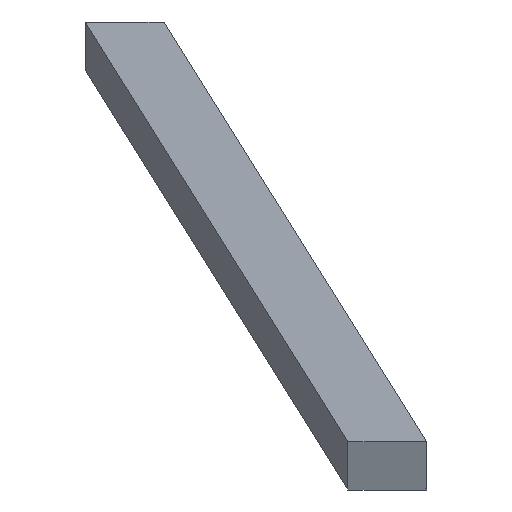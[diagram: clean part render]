
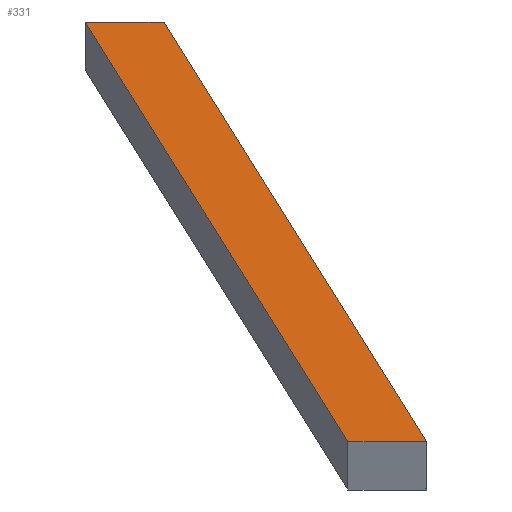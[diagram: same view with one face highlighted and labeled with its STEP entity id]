
A CAD part, front view. The second image highlights one B-rep face of the part: STEP entity #331.
In plain terms, the highlighted planar face has unit normal (0, -0.401, 0.916).
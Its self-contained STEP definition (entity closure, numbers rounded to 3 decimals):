
#22 = VERTEX_POINT('',#23);
#23 = CARTESIAN_POINT('',(-70.5,116.913,128.));
#32 = PLANE('',#33);
#33 = AXIS2_PLACEMENT_3D('',#34,#35,#36);
#34 = CARTESIAN_POINT('',(-70.5,116.913,128.));
#35 = DIRECTION('',(0.97,0.223,0.098));
#36 = DIRECTION('',(-0.243,0.889,0.389));
#44 = PLANE('',#45);
#45 = AXIS2_PLACEMENT_3D('',#46,#47,#48);
#46 = CARTESIAN_POINT('',(-64.5,116.913,128.));
#47 = DIRECTION('',(0.,0.916,0.401));
#48 = DIRECTION('',(-1.,0.,0.));
#85 = VERTEX_POINT('',#86);
#86 = CARTESIAN_POINT('',(-90.5,190.,160.));
#100 = PLANE('',#101);
#101 = AXIS2_PLACEMENT_3D('',#102,#103,#104);
#102 = CARTESIAN_POINT('',(-90.5,190.,160.));
#103 = DIRECTION('',(0.,-0.916,-0.401));
#104 = DIRECTION('',(1.,0.,0.));
#112 = EDGE_CURVE('',#22,#85,#113,.T.);
#113 = SURFACE_CURVE('',#114,(#118,#125),.PCURVE_S1.);
#114 = LINE('',#115,#116);
#115 = CARTESIAN_POINT('',(-70.5,116.913,128.));
#116 = VECTOR('',#117,1.);
#117 = DIRECTION('',(-0.243,0.889,0.389));
#118 = PCURVE('',#32,#119);
#119 = DEFINITIONAL_REPRESENTATION('',(#120),#124);
#120 = LINE('',#121,#122);
#121 = CARTESIAN_POINT('',(0.,0.));
#122 = VECTOR('',#123,1.);
#123 = DIRECTION('',(1.,0.));
#124 = ( GEOMETRIC_REPRESENTATION_CONTEXT(2) 
PARAMETRIC_REPRESENTATION_CONTEXT() REPRESENTATION_CONTEXT('2D SPACE',''
  ) );
#125 = PCURVE('',#126,#131);
#126 = PLANE('',#127);
#127 = AXIS2_PLACEMENT_3D('',#128,#129,#130);
#128 = CARTESIAN_POINT('',(-77.5,153.457,144.));
#129 = DIRECTION('',(0.,0.401,-0.916)
  );
#130 = DIRECTION('',(0.,-0.916,-0.401)
  );
#131 = DEFINITIONAL_REPRESENTATION('',(#132),#136);
#132 = LINE('',#133,#134);
#133 = CARTESIAN_POINT('',(39.893,-7.));
#134 = VECTOR('',#135,1.);
#135 = DIRECTION('',(-0.97,0.243));
#136 = ( GEOMETRIC_REPRESENTATION_CONTEXT(2) 
PARAMETRIC_REPRESENTATION_CONTEXT() REPRESENTATION_CONTEXT('2D SPACE',''
  ) );
#166 = VERTEX_POINT('',#167);
#167 = CARTESIAN_POINT('',(-84.5,190.,160.));
#181 = PLANE('',#182);
#182 = AXIS2_PLACEMENT_3D('',#183,#184,#185);
#183 = CARTESIAN_POINT('',(-84.5,190.,160.));
#184 = DIRECTION('',(-0.97,-0.223,-0.098
    ));
#185 = DIRECTION('',(0.243,-0.889,-0.389));
#193 = EDGE_CURVE('',#85,#166,#194,.T.);
#194 = SURFACE_CURVE('',#195,(#199,#206),.PCURVE_S1.);
#195 = LINE('',#196,#197);
#196 = CARTESIAN_POINT('',(-90.5,190.,160.));
#197 = VECTOR('',#198,1.);
#198 = DIRECTION('',(1.,0.,0.));
#199 = PCURVE('',#100,#200);
#200 = DEFINITIONAL_REPRESENTATION('',(#201),#205);
#201 = LINE('',#202,#203);
#202 = CARTESIAN_POINT('',(0.,0.));
#203 = VECTOR('',#204,1.);
#204 = DIRECTION('',(1.,0.));
#205 = ( GEOMETRIC_REPRESENTATION_CONTEXT(2) 
PARAMETRIC_REPRESENTATION_CONTEXT() REPRESENTATION_CONTEXT('2D SPACE',''
  ) );
#206 = PCURVE('',#126,#207);
#207 = DEFINITIONAL_REPRESENTATION('',(#208),#212);
#208 = LINE('',#209,#210);
#209 = CARTESIAN_POINT('',(-39.893,13.));
#210 = VECTOR('',#211,1.);
#211 = DIRECTION('',(0.,-1.));
#212 = ( GEOMETRIC_REPRESENTATION_CONTEXT(2) 
PARAMETRIC_REPRESENTATION_CONTEXT() REPRESENTATION_CONTEXT('2D SPACE',''
  ) );
#242 = VERTEX_POINT('',#243);
#243 = CARTESIAN_POINT('',(-64.5,116.913,128.));
#264 = EDGE_CURVE('',#166,#242,#265,.T.);
#265 = SURFACE_CURVE('',#266,(#270,#277),.PCURVE_S1.);
#266 = LINE('',#267,#268);
#267 = CARTESIAN_POINT('',(-84.5,190.,160.));
#268 = VECTOR('',#269,1.);
#269 = DIRECTION('',(0.243,-0.889,-0.389));
#270 = PCURVE('',#181,#271);
#271 = DEFINITIONAL_REPRESENTATION('',(#272),#276);
#272 = LINE('',#273,#274);
#273 = CARTESIAN_POINT('',(0.,0.));
#274 = VECTOR('',#275,1.);
#275 = DIRECTION('',(1.,0.));
#276 = ( GEOMETRIC_REPRESENTATION_CONTEXT(2) 
PARAMETRIC_REPRESENTATION_CONTEXT() REPRESENTATION_CONTEXT('2D SPACE',''
  ) );
#277 = PCURVE('',#126,#278);
#278 = DEFINITIONAL_REPRESENTATION('',(#279),#283);
#279 = LINE('',#280,#281);
#280 = CARTESIAN_POINT('',(-39.893,7.));
#281 = VECTOR('',#282,1.);
#282 = DIRECTION('',(0.97,-0.243));
#283 = ( GEOMETRIC_REPRESENTATION_CONTEXT(2) 
PARAMETRIC_REPRESENTATION_CONTEXT() REPRESENTATION_CONTEXT('2D SPACE',''
  ) );
#311 = EDGE_CURVE('',#242,#22,#312,.T.);
#312 = SURFACE_CURVE('',#313,(#317,#324),.PCURVE_S1.);
#313 = LINE('',#314,#315);
#314 = CARTESIAN_POINT('',(-64.5,116.913,128.));
#315 = VECTOR('',#316,1.);
#316 = DIRECTION('',(-1.,0.,0.));
#317 = PCURVE('',#44,#318);
#318 = DEFINITIONAL_REPRESENTATION('',(#319),#323);
#319 = LINE('',#320,#321);
#320 = CARTESIAN_POINT('',(0.,0.));
#321 = VECTOR('',#322,1.);
#322 = DIRECTION('',(1.,0.));
#323 = ( GEOMETRIC_REPRESENTATION_CONTEXT(2) 
PARAMETRIC_REPRESENTATION_CONTEXT() REPRESENTATION_CONTEXT('2D SPACE',''
  ) );
#324 = PCURVE('',#126,#325);
#325 = DEFINITIONAL_REPRESENTATION('',(#326),#330);
#326 = LINE('',#327,#328);
#327 = CARTESIAN_POINT('',(39.893,-13.));
#328 = VECTOR('',#329,1.);
#329 = DIRECTION('',(0.,1.));
#330 = ( GEOMETRIC_REPRESENTATION_CONTEXT(2) 
PARAMETRIC_REPRESENTATION_CONTEXT() REPRESENTATION_CONTEXT('2D SPACE',''
  ) );
#331 = ADVANCED_FACE('',(#332),#126,.F.);
#332 = FACE_BOUND('',#333,.F.);
#333 = EDGE_LOOP('',(#334,#335,#336,#337));
#334 = ORIENTED_EDGE('',*,*,#112,.T.);
#335 = ORIENTED_EDGE('',*,*,#193,.T.);
#336 = ORIENTED_EDGE('',*,*,#264,.T.);
#337 = ORIENTED_EDGE('',*,*,#311,.T.);
